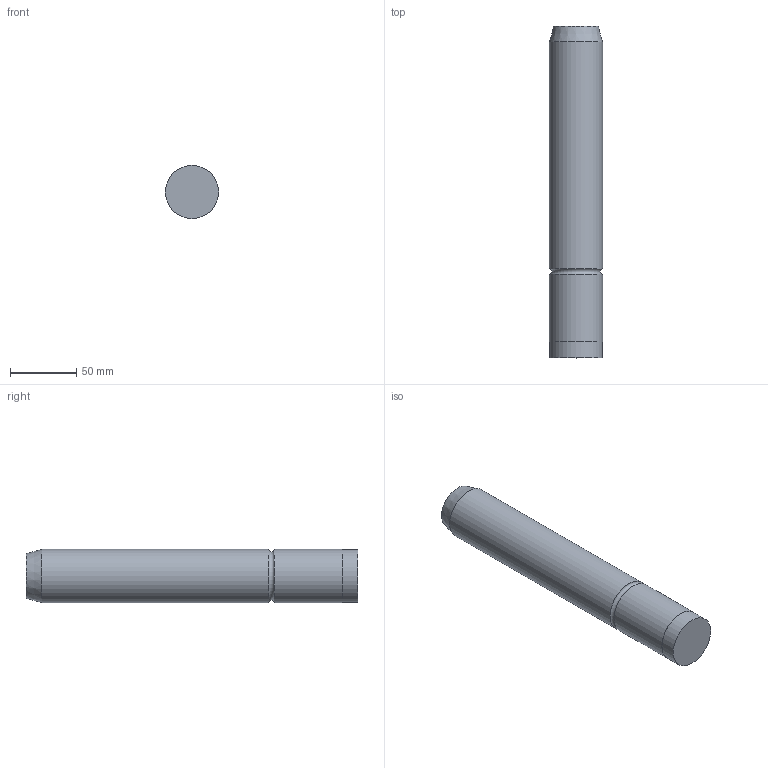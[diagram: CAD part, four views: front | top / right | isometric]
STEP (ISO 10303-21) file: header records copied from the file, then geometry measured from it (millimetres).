
FILE_DESCRIPTION( ( 'STEP AP203' ), '1' );
FILE_NAME( 'D:/Cuma/25 06 2009/D12/D12_40250.step', '2003-02-03T12:19:45', ( ' ' ), ( ' ' ), 'XStep 1.0', ' ', ' ' );
FILE_SCHEMA( ( 'CONFIG_CONTROL_DESIGN' ) );
Length unit declared in the file: metre
Products named in the file (1): 1
Bounding box: 40 x 250 x 40 mm (x, y, z)
Volume: 310882.7 mm3; surface area: 33723.6 mm2
Topology: 1 solids, 1 shells, 8 faces, 12 edges, 7 vertices
Faces by surface type: plane 3, cylinder 3, cone 1, torus 1
Full cylindrical faces by diameter (mm): 39.8 x1, 40 x2
Entity records: 199 total; most frequent: DIRECTION 32, CARTESIAN_POINT 23, AXIS2_PLACEMENT_3D 16, EDGE_LOOP 14, ORIENTED_EDGE 14, FACE_OUTER_BOUND 12, ADVANCED_FACE 8, EDGE_CURVE 7
